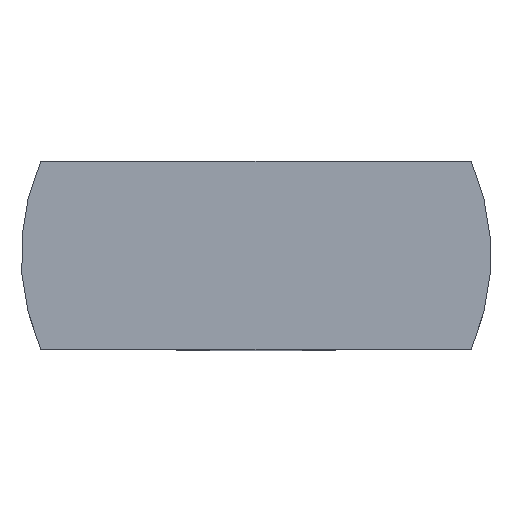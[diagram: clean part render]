
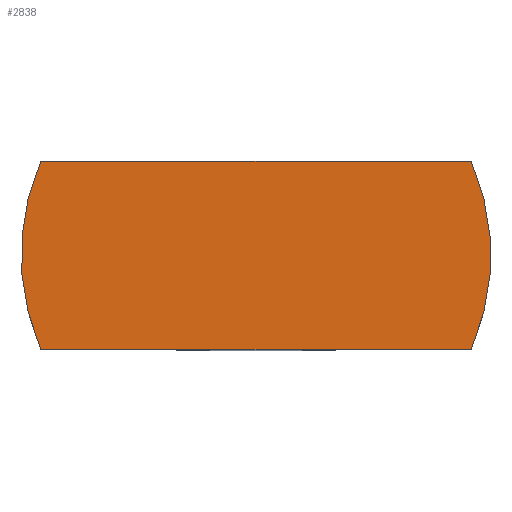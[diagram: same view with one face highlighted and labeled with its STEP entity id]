
A CAD part, top view. The second image highlights one B-rep face of the part: STEP entity #2838.
In plain terms, the highlighted planar face has unit normal (0, 0, 1).
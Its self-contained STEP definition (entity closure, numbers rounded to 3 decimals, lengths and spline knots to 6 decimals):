
#16=PLANE('',#2912);
#606=LINE('',#46513,#693);
#607=LINE('',#46514,#694);
#693=VECTOR('',#3119,1.);
#694=VECTOR('',#3120,1.);
#1299=ORIENTED_EDGE('',*,*,#2058,.F.);
#1300=ORIENTED_EDGE('',*,*,#2052,.F.);
#1301=ORIENTED_EDGE('',*,*,#2059,.T.);
#1302=ORIENTED_EDGE('',*,*,#2056,.F.);
#2052=EDGE_CURVE('',#2363,#2364,#2376,.T.);
#2056=EDGE_CURVE('',#2365,#2366,#2377,.T.);
#2058=EDGE_CURVE('',#2364,#2365,#606,.T.);
#2059=EDGE_CURVE('',#2363,#2366,#607,.T.);
#2363=VERTEX_POINT('',#46502);
#2364=VERTEX_POINT('',#46503);
#2365=VERTEX_POINT('',#46508);
#2366=VERTEX_POINT('',#46510);
#2376=CIRCLE('',#2909,0.01905);
#2377=CIRCLE('',#2911,0.01905);
#2528=EDGE_LOOP('',(#1299,#1300,#1301,#1302));
#2682=FACE_BOUND('',#2528,.T.);
#2838=ADVANCED_FACE('',(#2682),#16,.F.);
#2909=AXIS2_PLACEMENT_3D('',#46501,#3107,#3108);
#2911=AXIS2_PLACEMENT_3D('',#46509,#3114,#3115);
#2912=AXIS2_PLACEMENT_3D('',#46512,#3117,#3118);
#3107=DIRECTION('',(0.,0.,-1.));
#3108=DIRECTION('',(0.,1.,0.));
#3114=DIRECTION('',(0.,0.,-1.));
#3115=DIRECTION('',(0.,1.,0.));
#3117=DIRECTION('',(0.,0.,-1.));
#3118=DIRECTION('',(0.,1.,0.));
#3119=DIRECTION('',(1.,0.,0.));
#3120=DIRECTION('',(1.,0.,0.));
#46501=CARTESIAN_POINT('',(0.,0.,0.06477));
#46502=CARTESIAN_POINT('',(-0.01746,-0.00762,0.06477));
#46503=CARTESIAN_POINT('',(-0.01746,0.00762,0.06477));
#46508=CARTESIAN_POINT('',(0.01746,0.00762,0.06477));
#46509=CARTESIAN_POINT('',(0.,0.,0.06477));
#46510=CARTESIAN_POINT('',(0.01746,-0.00762,0.06477));
#46512=CARTESIAN_POINT('',(0.,0.009525,0.06477));
#46513=CARTESIAN_POINT('',(-0.013942,0.00762,0.06477));
#46514=CARTESIAN_POINT('',(-0.015976,-0.00762,0.06477));
